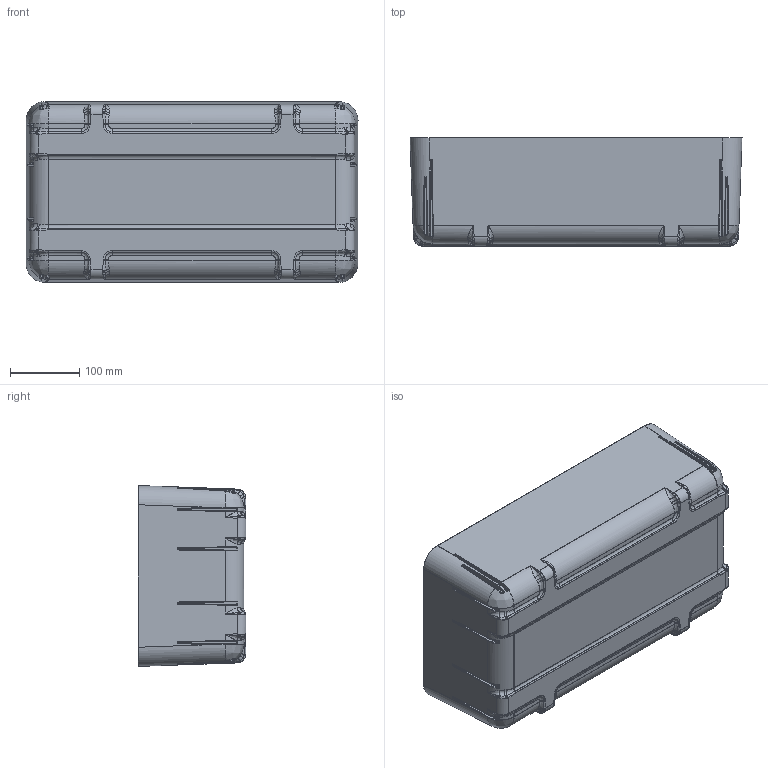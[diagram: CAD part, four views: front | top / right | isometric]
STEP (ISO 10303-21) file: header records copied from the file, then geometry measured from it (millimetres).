
FILE_DESCRIPTION (( 'STEP AP214' ), '1' );
FILE_NAME ('1461-931b-CLR Bottom PID file.STEP', '2010-02-16T16:59:14', ( ' ' ), ( ' ' ), 'SwSTEP 2.0', 'SolidWorks 2007', '' );
FILE_SCHEMA (( 'AUTOMOTIVE_DESIGN' ));
Length unit declared in the file: inch
Products named in the file (1): 1461-931b-CLR Bottom PID file
Bounding box: 481.07 x 156.4 x 262 mm (x, y, z)
Volume: 215836.2 mm3; surface area: 680082 mm2
Topology: 1 solids, 1 shells, 1203 faces, 2967 edges, 1667 vertices
Faces by surface type: bspline 692, cylinder 356, plane 155
Entity records: 79281 total; most frequent: CARTESIAN_POINT 57215, ORIENTED_EDGE 5734, DIRECTION 3061, EDGE_CURVE 2867, VERTEX_POINT 1667, B_SPLINE_CURVE_WITH_KNOTS 1336, EDGE_LOOP 1204, FACE_OUTER_BOUND 1203
